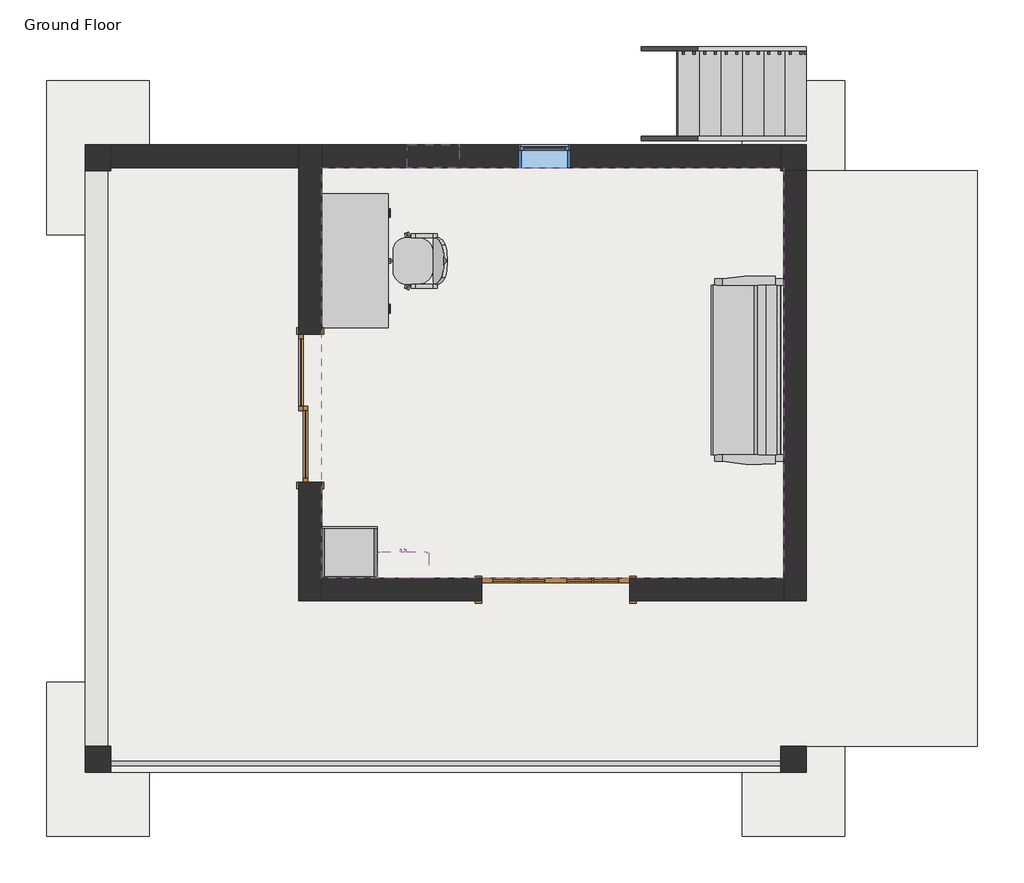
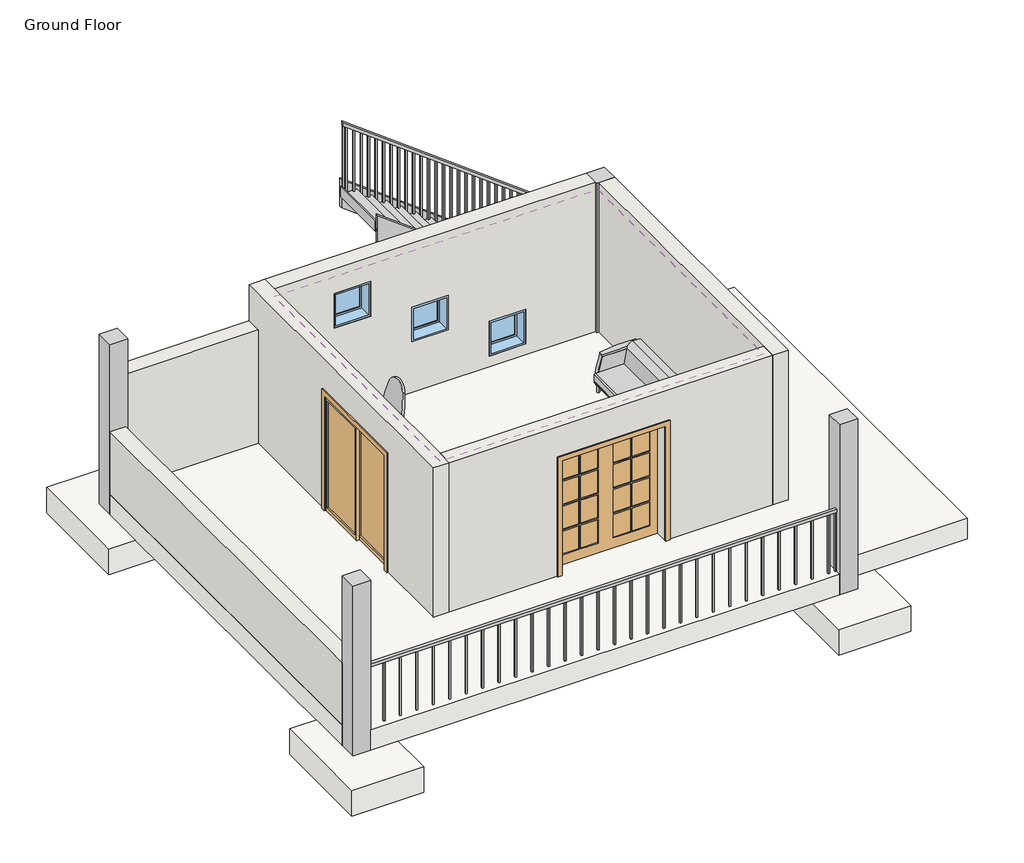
# One storey: 6 walls, 5 furniture elements, 5 slabs, 4 columns, 3 windows, 2 doors, 2 members, 2 railings, 2 other elements.
"""IFC4 building model written with IfcOpenShell, lengths in millimetres."""

from ifc_helpers import new_model, si_unit, frame, origin, origin_with_axes, place, context, project, spatial, polyline, outline, extrude, faceted_brep, transform, mapped, element, save
from components import m_double_glass_2_1730_x_2032mm_0b333e25, m_sliding_2_panel_1730_x_2032mm_289bf79d, m_chair_executive_m_chair_executive_8d69e98c, m_desk_1525_x_762mm_8f660baf, m_sofa_pensi_2134mm_eda8efce, m_tall_cabinet_2_door_built_in_650mm_83a7ffa1, m_upper_cabinet_double_door_w_glass_wall_600mm_8f8874be, m_footing_rectangular_1800_x_1200_x_450mm_16ba7ea5, stair_flight_50mm_tread_13mm_riser_3baf10d3, m_fixed_0610_x_0610mm_b9847aa4

model = new_model("IFC4")

# Units and contexts
model_context = context("Model", 3, world=origin())
ifc_project = project(units=[si_unit("LENGTHUNIT", "METRE", prefix="MILLI")], contexts=[model_context])

# Site, building, storey
site = spatial("IfcSite", under=ifc_project)
building = spatial("IfcBuilding", under=site)
storey = spatial("IfcBuildingStorey", under=building, Name="Ground Floor", Elevation=0.0)

# Columns
placement = place(None, origin())
element("IfcColumn", 1, ObjectType="M_Concrete-Square-Column : 300 x 300mm", at=placement, inside=storey, context=model_context, shape_type="Brep", body=[
    faceted_brep([(-7312.164818, 210.6690392, -362.0), (-7312.164818, -89.3309608, -362.0), (-7612.164818, -89.3309608, -362.0), (-7612.164818, 210.6690392, -362.0), (-7312.164818, 210.6690392, 0.0), (-7312.164818, 210.6690392, 2638.0), (-7312.164818, -89.3309608, 2638.0), (-7312.164818, -89.3309608, 0.0), (-7612.164818, -89.3309608, 2638.0), (-7612.164818, -89.3309608, 0.0), (-7612.164818, 210.6690392, 2638.0)], [[[0, 1, 2, 3]], [[1, 0, 4, 5, 6, 7]], [[2, 1, 7, 6, 8, 9]], [[3, 2, 9, 8, 10]], [[0, 3, 10, 5, 4]], [[6, 5, 10, 8]]]),
])
element("IfcColumn", 2, ObjectType="M_Concrete-Square-Column : 300 x 300mm", at=placement, inside=storey, context=model_context, shape_type="Brep", body=[
    faceted_brep([(-7312.164818, -6817.3309608, -362.0), (-7312.164818, -7117.3309608, -362.0), (-7612.164818, -7117.3309608, -362.0), (-7612.164818, -6817.3309608, -362.0), (-7312.164818, -6817.3309608, 0.0), (-7312.164818, -6817.3309608, 2638.0), (-7312.164818, -7117.3309608, 2638.0), (-7312.164818, -7117.3309608, 0.0), (-7612.164818, -7117.3309608, 2638.0), (-7612.164818, -6817.3309608, 2638.0), (-7612.164818, -6817.3309608, 0.0)], [[[0, 1, 2, 3]], [[1, 0, 4, 5, 6, 7]], [[2, 1, 7, 6, 8]], [[3, 2, 8, 9, 10]], [[0, 3, 10, 9, 5, 4]], [[6, 5, 9, 8]]]),
])
element("IfcColumn", 3, ObjectType="M_Concrete-Square-Column : 300 x 300mm", at=placement, inside=storey, context=model_context, shape_type="Brep", body=[
    faceted_brep([(815.835182, -6817.3309608, -362.0), (815.835182, -7117.3309608, -362.0), (515.835182, -7117.3309608, -362.0), (515.835182, -6817.3309608, -362.0), (815.835182, -6817.3309608, 0.0), (815.835182, -6817.3309608, 2638.0), (815.835182, -7117.3309608, 2638.0), (515.835182, -7117.3309608, 2638.0), (515.835182, -7117.3309608, 0.0), (515.835182, -6817.3309608, 2638.0), (515.835182, -6817.3309608, 0.0)], [[[0, 1, 2, 3]], [[1, 0, 4, 5, 6]], [[2, 1, 6, 7, 8]], [[3, 2, 8, 7, 9, 10]], [[0, 3, 10, 9, 5, 4]], [[6, 5, 9, 7]]]),
])
element("IfcColumn", 4, ObjectType="M_Concrete-Square-Column : 300 x 300mm", at=placement, inside=storey, context=model_context, shape_type="Brep", body=[
    faceted_brep([(815.835182, 210.6690392, -362.0), (815.835182, -89.3309608, -362.0), (515.835182, -89.3309608, -362.0), (515.835182, 210.6690392, -362.0), (815.835182, 210.6690392, 2300.0), (815.835182, 210.6690392, 2500.0), (815.835182, 210.6690392, 2638.0), (815.835182, -89.3309608, 2638.0), (815.835182, -89.3309608, 0.0), (551.835182, -89.3309608, 2638.0), (515.835182, -89.3309608, 2638.0), (515.835182, -89.3309608, 0.0), (515.835182, -53.3309608, 2638.0), (515.835182, 210.6690392, 2638.0), (515.835182, 210.6690392, 0.0)], [[[0, 1, 2, 3]], [[1, 0, 4, 5, 6, 7, 8]], [[2, 1, 8, 7, 9, 10, 11]], [[3, 2, 11, 10, 12, 13, 14]], [[0, 3, 14, 13, 6, 5, 4]], [[7, 6, 13, 12, 10, 9]]]),
])

# Covering
element("IfcCovering", 5, ObjectType="600 x 600mm Grid", at=placement, inside=storey, context=model_context, shape_type="SweptSolid", body=[
    extrude(outline(polyline([(-4848.164818, -4853.3309608), (-4848.164818, -53.3309608), (551.835182, -53.3309608), (551.835182, -4853.3309608), (-4848.164818, -4853.3309608)])), frame((0.0, 0.0, 2500.0), z_axis=(0.0, 0.0, 1.0), x_axis=(1.0, 0.0, 0.0)), (0.0, 0.0, 1.0), 52.0),
])

# Doors
m_double_glass_2_1730_x_2032mm_shape = m_double_glass_2_1730_x_2032mm_0b333e25(model_context)
element("IfcDoor", 6, ObjectType="M_Double-Glass 2 : 1730 x 2032mm", at=placement, inside=storey, context=model_context, shape_type="MappedRepresentation", body=[
    mapped(m_double_glass_2_1730_x_2032mm_shape, transform((-2112.164818, -4985.3309608, 0.0), x_axis=(1.0, 0.0, 0.0), y_axis=(0.0, 1.0, 0.0), z_axis=(0.0, 0.0, 1.0))),
])
m_sliding_2_panel_1730_x_2032mm_shape = m_sliding_2_panel_1730_x_2032mm_289bf79d(model_context)
element("IfcDoor", 7, ObjectType="M_Sliding-2 Panel : 1730 x 2032mm", at=placement, inside=storey, context=model_context, shape_type="MappedRepresentation", body=[
    mapped(m_sliding_2_panel_1730_x_2032mm_shape, transform((-4853.164818, -2867.3309608, 0.0), x_axis=(0.0, -1.0, 0.0), y_axis=(1.0, 0.0, 0.0), z_axis=(0.0, 0.0, 1.0))),
])

# Furniture
m_chair_executive_m_chair_executive_shape = m_chair_executive_m_chair_executive_8d69e98c(model_context)
element("IfcFurniture", 8, ObjectType="M_Chair-Executive : M_Chair-Executive", at=placement, inside=storey, context=model_context, shape_type="MappedRepresentation", body=[
    mapped(m_chair_executive_m_chair_executive_shape, transform((-3729.2189164, -1284.8217805, 0.0), x_axis=(0.0, 1.0000000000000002, 0.0), y_axis=(-1.0000000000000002, 0.0, 0.0), z_axis=(0.0, 0.0, 1.0))),
])
m_desk_1525_x_762mm_shape = m_desk_1525_x_762mm_8f660baf(model_context)
element("IfcFurniture", 9, ObjectType="M_Desk : 1525 x 762mm", at=placement, inside=storey, context=model_context, shape_type="MappedRepresentation", body=[
    mapped(m_desk_1525_x_762mm_shape, transform((-4086.164818, -1905.8309608, 0.0), x_axis=(0.0, 1.0000000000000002, 0.0), y_axis=(-1.0000000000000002, 0.0, 0.0), z_axis=(0.0, 0.0, 1.0))),
])
m_sofa_pensi_2134mm_shape = m_sofa_pensi_2134mm_eda8efce(model_context)
element("IfcFurniture", 10, ObjectType="M_Sofa-Pensi : 2134mm", at=placement, inside=storey, context=model_context, shape_type="MappedRepresentation", body=[
    mapped(m_sofa_pensi_2134mm_shape, transform((-153.2746541, -2138.7247108, 0.0), x_axis=(0.0, -1.0000000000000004, 0.0), y_axis=(1.0000000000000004, 0.0, 0.0), z_axis=(0.0, 0.0, 1.0))),
])
m_tall_cabinet_2_door_built_in_650mm_shape = m_tall_cabinet_2_door_built_in_650mm_83a7ffa1(model_context)
element("IfcFurniture", 11, ObjectType="M_Tall Cabinet-2 Door-Built in : 650mm", at=placement, inside=storey, context=model_context, shape_type="MappedRepresentation", body=[
    mapped(m_tall_cabinet_2_door_built_in_650mm_shape, transform((-4504.4271131, -4853.3309608, 0.0), x_axis=(-1.0, 0.0, 0.0), y_axis=(0.0, -1.0, 0.0), z_axis=(0.0, 0.0, 1.0))),
])
m_upper_cabinet_double_door_w_glass_wall_600mm_shape = m_upper_cabinet_double_door_w_glass_wall_600mm_8f8874be(model_context)
element("IfcFurniture", 12, ObjectType="M_Upper Cabinet-Double Door w Glass-Wall : 600mm", at=placement, inside=storey, context=model_context, shape_type="MappedRepresentation", body=[
    mapped(m_upper_cabinet_double_door_w_glass_wall_600mm_shape, transform((-3927.9359808, -4985.3309608, 0.0), x_axis=(1.0, 0.0, 0.0), y_axis=(0.0, 1.0, 0.0), z_axis=(0.0, 0.0, 1.0))),
])

# Members
element("IfcMember", 13, ObjectType="Stringer - 50mm Width", at=placement, inside=storey, context=model_context, shape_type="SweptSolid", body=[
    extrude(outline(polyline([(0.0, 815.835182), (253.125, 815.835182), (3065.625, -2934.164818), (2565.625, -2934.164818), (0.0, 486.6685153), (0.0, 815.835182)])), frame((0.0, 260.6690392, 0.0), z_axis=(0.0, 1.0, 0.0), x_axis=(0.0, 0.0, 1.0)), (0.0, 0.0, 1.0), 50.0),
])
element("IfcMember", 14, ObjectType="Stringer - 50mm Width", at=placement, inside=storey, context=model_context, shape_type="SweptSolid", body=[
    extrude(outline(polyline([(0.0, 815.835182), (253.125, 815.835182), (3065.625, -2934.164818), (2565.625, -2934.164818), (0.0, 486.6685153), (0.0, 815.835182)])), frame((0.0, 1310.6690392, 0.0), z_axis=(0.0, 1.0, 0.0), x_axis=(0.0, 0.0, 1.0)), (0.0, 0.0, 1.0), 50.0),
])

# Railings
element("IfcRailing", 15, ObjectType="1100mm", at=placement, inside=storey, context=model_context, shape_type="SweptSolid", body=[
    extrude(outline(polyline([(-7312.164818, -7042.3309608), (-7312.164818, -6992.3309608), (515.835182, -6992.3309608), (515.835182, -7042.3309608), (-7312.164818, -7042.3309608)])), frame((0.0, 0.0, 1050.0), z_axis=(0.0, 0.0, 1.0), x_axis=(1.0, 0.0, 0.0)), (0.0, 0.0, 1.0), 50.0),
    extrude(outline(polyline([(375.335182, -7029.8309608), (375.335182, -7004.8309608), (400.335182, -7004.8309608), (400.335182, -7029.8309608), (375.335182, -7029.8309608)])), origin_with_axes(), (0.0, 0.0, 1.0), 1050.0),
    extrude(outline(polyline([(100.335182, -7029.8309608), (100.335182, -7004.8309608), (125.335182, -7004.8309608), (125.335182, -7029.8309608), (100.335182, -7029.8309608)])), origin_with_axes(), (0.0, 0.0, 1.0), 1050.0),
    extrude(outline(polyline([(-174.664818, -7029.8309608), (-174.664818, -7004.8309608), (-149.664818, -7004.8309608), (-149.664818, -7029.8309608), (-174.664818, -7029.8309608)])), origin_with_axes(), (0.0, 0.0, 1.0), 1050.0),
    extrude(outline(polyline([(-449.664818, -7029.8309608), (-449.664818, -7004.8309608), (-424.664818, -7004.8309608), (-424.664818, -7029.8309608), (-449.664818, -7029.8309608)])), origin_with_axes(), (0.0, 0.0, 1.0), 1050.0),
    extrude(outline(polyline([(-724.664818, -7029.8309608), (-724.664818, -7004.8309608), (-699.664818, -7004.8309608), (-699.664818, -7029.8309608), (-724.664818, -7029.8309608)])), origin_with_axes(), (0.0, 0.0, 1.0), 1050.0),
    extrude(outline(polyline([(-999.664818, -7029.8309608), (-999.664818, -7004.8309608), (-974.664818, -7004.8309608), (-974.664818, -7029.8309608), (-999.664818, -7029.8309608)])), origin_with_axes(), (0.0, 0.0, 1.0), 1050.0),
    extrude(outline(polyline([(-1274.664818, -7029.8309608), (-1274.664818, -7004.8309608), (-1249.664818, -7004.8309608), (-1249.664818, -7029.8309608), (-1274.664818, -7029.8309608)])), origin_with_axes(), (0.0, 0.0, 1.0), 1050.0),
    extrude(outline(polyline([(-1549.664818, -7029.8309608), (-1549.664818, -7004.8309608), (-1524.664818, -7004.8309608), (-1524.664818, -7029.8309608), (-1549.664818, -7029.8309608)])), origin_with_axes(), (0.0, 0.0, 1.0), 1050.0),
    extrude(outline(polyline([(-1824.664818, -7029.8309608), (-1824.664818, -7004.8309608), (-1799.664818, -7004.8309608), (-1799.664818, -7029.8309608), (-1824.664818, -7029.8309608)])), origin_with_axes(), (0.0, 0.0, 1.0), 1050.0),
    extrude(outline(polyline([(-2099.664818, -7029.8309608), (-2099.664818, -7004.8309608), (-2074.664818, -7004.8309608), (-2074.664818, -7029.8309608), (-2099.664818, -7029.8309608)])), origin_with_axes(), (0.0, 0.0, 1.0), 1050.0),
    extrude(outline(polyline([(-2374.664818, -7029.8309608), (-2374.664818, -7004.8309608), (-2349.664818, -7004.8309608), (-2349.664818, -7029.8309608), (-2374.664818, -7029.8309608)])), origin_with_axes(), (0.0, 0.0, 1.0), 1050.0),
    extrude(outline(polyline([(-2649.664818, -7029.8309608), (-2649.664818, -7004.8309608), (-2624.664818, -7004.8309608), (-2624.664818, -7029.8309608), (-2649.664818, -7029.8309608)])), origin_with_axes(), (0.0, 0.0, 1.0), 1050.0),
    extrude(outline(polyline([(-2924.664818, -7029.8309608), (-2924.664818, -7004.8309608), (-2899.664818, -7004.8309608), (-2899.664818, -7029.8309608), (-2924.664818, -7029.8309608)])), origin_with_axes(), (0.0, 0.0, 1.0), 1050.0),
    extrude(outline(polyline([(-3199.664818, -7029.8309608), (-3199.664818, -7004.8309608), (-3174.664818, -7004.8309608), (-3174.664818, -7029.8309608), (-3199.664818, -7029.8309608)])), origin_with_axes(), (0.0, 0.0, 1.0), 1050.0),
    extrude(outline(polyline([(-3474.664818, -7029.8309608), (-3474.664818, -7004.8309608), (-3449.664818, -7004.8309608), (-3449.664818, -7029.8309608), (-3474.664818, -7029.8309608)])), origin_with_axes(), (0.0, 0.0, 1.0), 1050.0),
    extrude(outline(polyline([(-3749.664818, -7029.8309608), (-3749.664818, -7004.8309608), (-3724.664818, -7004.8309608), (-3724.664818, -7029.8309608), (-3749.664818, -7029.8309608)])), origin_with_axes(), (0.0, 0.0, 1.0), 1050.0),
    extrude(outline(polyline([(-4024.664818, -7029.8309608), (-4024.664818, -7004.8309608), (-3999.664818, -7004.8309608), (-3999.664818, -7029.8309608), (-4024.664818, -7029.8309608)])), origin_with_axes(), (0.0, 0.0, 1.0), 1050.0),
    extrude(outline(polyline([(-4299.664818, -7029.8309608), (-4299.664818, -7004.8309608), (-4274.664818, -7004.8309608), (-4274.664818, -7029.8309608), (-4299.664818, -7029.8309608)])), origin_with_axes(), (0.0, 0.0, 1.0), 1050.0),
    extrude(outline(polyline([(-4574.664818, -7029.8309608), (-4574.664818, -7004.8309608), (-4549.664818, -7004.8309608), (-4549.664818, -7029.8309608), (-4574.664818, -7029.8309608)])), origin_with_axes(), (0.0, 0.0, 1.0), 1050.0),
    extrude(outline(polyline([(-4849.664818, -7029.8309608), (-4849.664818, -7004.8309608), (-4824.664818, -7004.8309608), (-4824.664818, -7029.8309608), (-4849.664818, -7029.8309608)])), origin_with_axes(), (0.0, 0.0, 1.0), 1050.0),
    extrude(outline(polyline([(-5124.664818, -7029.8309608), (-5124.664818, -7004.8309608), (-5099.664818, -7004.8309608), (-5099.664818, -7029.8309608), (-5124.664818, -7029.8309608)])), origin_with_axes(), (0.0, 0.0, 1.0), 1050.0),
    extrude(outline(polyline([(-5399.664818, -7029.8309608), (-5399.664818, -7004.8309608), (-5374.664818, -7004.8309608), (-5374.664818, -7029.8309608), (-5399.664818, -7029.8309608)])), origin_with_axes(), (0.0, 0.0, 1.0), 1050.0),
    extrude(outline(polyline([(-5674.664818, -7029.8309608), (-5674.664818, -7004.8309608), (-5649.664818, -7004.8309608), (-5649.664818, -7029.8309608), (-5674.664818, -7029.8309608)])), origin_with_axes(), (0.0, 0.0, 1.0), 1050.0),
    extrude(outline(polyline([(-5949.664818, -7029.8309608), (-5949.664818, -7004.8309608), (-5924.664818, -7004.8309608), (-5924.664818, -7029.8309608), (-5949.664818, -7029.8309608)])), origin_with_axes(), (0.0, 0.0, 1.0), 1050.0),
    extrude(outline(polyline([(-6224.664818, -7029.8309608), (-6224.664818, -7004.8309608), (-6199.664818, -7004.8309608), (-6199.664818, -7029.8309608), (-6224.664818, -7029.8309608)])), origin_with_axes(), (0.0, 0.0, 1.0), 1050.0),
    extrude(outline(polyline([(-6499.664818, -7029.8309608), (-6499.664818, -7004.8309608), (-6474.664818, -7004.8309608), (-6474.664818, -7029.8309608), (-6499.664818, -7029.8309608)])), origin_with_axes(), (0.0, 0.0, 1.0), 1050.0),
    extrude(outline(polyline([(-6774.664818, -7029.8309608), (-6774.664818, -7004.8309608), (-6749.664818, -7004.8309608), (-6749.664818, -7029.8309608), (-6774.664818, -7029.8309608)])), origin_with_axes(), (0.0, 0.0, 1.0), 1050.0),
    extrude(outline(polyline([(-7049.664818, -7029.8309608), (-7049.664818, -7004.8309608), (-7024.664818, -7004.8309608), (-7024.664818, -7029.8309608), (-7049.664818, -7029.8309608)])), origin_with_axes(), (0.0, 0.0, 1.0), 1050.0),
    extrude(outline(polyline([(490.835182, -7029.8309608), (490.835182, -7004.8309608), (515.835182, -7004.8309608), (515.835182, -7029.8309608), (490.835182, -7029.8309608)])), origin_with_axes(), (0.0, 0.0, 1.0), 1050.0),
    extrude(outline(polyline([(-7312.164818, -7029.8309608), (-7312.164818, -7004.8309608), (-7287.164818, -7004.8309608), (-7287.164818, -7029.8309608), (-7312.164818, -7029.8309608)])), origin_with_axes(), (0.0, 0.0, 1.0), 1050.0),
])
element("IfcRailing", 16, ObjectType="1100mm", at=placement, inside=storey, context=model_context, shape_type="SweptSolid", body=[
    extrude(outline(polyline([(1225.0, 815.835182), (1287.5, 815.835182), (4100.0, -2934.164818), (4037.5, -2934.164818), (1225.0, 815.835182)])), frame((0.0, 1260.2690392, 0.0), z_axis=(0.0, 1.0, 0.0), x_axis=(0.0, 0.0, 1.0)), (0.0, 0.0, 1.0), 50.0),
    extrude(outline(polyline([(2812.5, -2859.164818), (3981.25, -2859.164818), (4000.0, -2884.164818), (2812.5, -2884.164818), (2812.5, -2859.164818)])), frame((0.0, 1272.7690392, 0.0), z_axis=(0.0, 1.0, 0.0), x_axis=(0.0, 0.0, 1.0)), (0.0, 0.0, 1.0), 25.0),
    extrude(outline(polyline([(2812.5, -2734.164818), (3887.5, -2734.164818), (3906.25, -2759.164818), (2812.5, -2759.164818), (2812.5, -2734.164818)])), frame((0.0, 1272.7690392, 0.0), z_axis=(0.0, 1.0, 0.0), x_axis=(0.0, 0.0, 1.0)), (0.0, 0.0, 1.0), 25.0),
    extrude(outline(polyline([(2625.0, -2609.164818), (3793.75, -2609.164818), (3812.5, -2634.164818), (2625.0, -2634.164818), (2625.0, -2609.164818)])), frame((0.0, 1272.7690392, 0.0), z_axis=(0.0, 1.0, 0.0), x_axis=(0.0, 0.0, 1.0)), (0.0, 0.0, 1.0), 25.0),
    extrude(outline(polyline([(2625.0, -2484.164818), (3700.0, -2484.164818), (3718.75, -2509.164818), (2625.0, -2509.164818), (2625.0, -2484.164818)])), frame((0.0, 1272.7690392, 0.0), z_axis=(0.0, 1.0, 0.0), x_axis=(0.0, 0.0, 1.0)), (0.0, 0.0, 1.0), 25.0),
    extrude(outline(polyline([(2437.5, -2359.164818), (3606.25, -2359.164818), (3625.0, -2384.164818), (2437.5, -2384.164818), (2437.5, -2359.164818)])), frame((0.0, 1272.7690392, 0.0), z_axis=(0.0, 1.0, 0.0), x_axis=(0.0, 0.0, 1.0)), (0.0, 0.0, 1.0), 25.0),
    extrude(outline(polyline([(2437.5, -2234.164818), (3512.5, -2234.164818), (3531.25, -2259.164818), (2437.5, -2259.164818), (2437.5, -2234.164818)])), frame((0.0, 1272.7690392, 0.0), z_axis=(0.0, 1.0, 0.0), x_axis=(0.0, 0.0, 1.0)), (0.0, 0.0, 1.0), 25.0),
    extrude(outline(polyline([(2250.0, -2109.164818), (3418.75, -2109.164818), (3437.5, -2134.164818), (2250.0, -2134.164818), (2250.0, -2109.164818)])), frame((0.0, 1272.7690392, 0.0), z_axis=(0.0, 1.0, 0.0), x_axis=(0.0, 0.0, 1.0)), (0.0, 0.0, 1.0), 25.0),
    extrude(outline(polyline([(2250.0, -1984.164818), (3325.0, -1984.164818), (3343.75, -2009.164818), (2250.0, -2009.164818), (2250.0, -1984.164818)])), frame((0.0, 1272.7690392, 0.0), z_axis=(0.0, 1.0, 0.0), x_axis=(0.0, 0.0, 1.0)), (0.0, 0.0, 1.0), 25.0),
    extrude(outline(polyline([(2062.5, -1859.164818), (3231.25, -1859.164818), (3250.0, -1884.164818), (2062.5, -1884.164818), (2062.5, -1859.164818)])), frame((0.0, 1272.7690392, 0.0), z_axis=(0.0, 1.0, 0.0), x_axis=(0.0, 0.0, 1.0)), (0.0, 0.0, 1.0), 25.0),
    extrude(outline(polyline([(2062.5, -1734.164818), (3137.5, -1734.164818), (3156.25, -1759.164818), (2062.5, -1759.164818), (2062.5, -1734.164818)])), frame((0.0, 1272.7690392, 0.0), z_axis=(0.0, 1.0, 0.0), x_axis=(0.0, 0.0, 1.0)), (0.0, 0.0, 1.0), 25.0),
    extrude(outline(polyline([(1875.0, -1609.164818), (3043.75, -1609.164818), (3062.5, -1634.164818), (1875.0, -1634.164818), (1875.0, -1609.164818)])), frame((0.0, 1272.7690392, 0.0), z_axis=(0.0, 1.0, 0.0), x_axis=(0.0, 0.0, 1.0)), (0.0, 0.0, 1.0), 25.0),
    extrude(outline(polyline([(1875.0, -1484.164818), (2950.0, -1484.164818), (2968.75, -1509.164818), (1875.0, -1509.164818), (1875.0, -1484.164818)])), frame((0.0, 1272.7690392, 0.0), z_axis=(0.0, 1.0, 0.0), x_axis=(0.0, 0.0, 1.0)), (0.0, 0.0, 1.0), 25.0),
    extrude(outline(polyline([(1687.5, -1359.164818), (2856.25, -1359.164818), (2875.0, -1384.164818), (1687.5, -1384.164818), (1687.5, -1359.164818)])), frame((0.0, 1272.7690392, 0.0), z_axis=(0.0, 1.0, 0.0), x_axis=(0.0, 0.0, 1.0)), (0.0, 0.0, 1.0), 25.0),
    extrude(outline(polyline([(1687.5, -1234.164818), (2762.5, -1234.164818), (2781.25, -1259.164818), (1687.5, -1259.164818), (1687.5, -1234.164818)])), frame((0.0, 1272.7690392, 0.0), z_axis=(0.0, 1.0, 0.0), x_axis=(0.0, 0.0, 1.0)), (0.0, 0.0, 1.0), 25.0),
    extrude(outline(polyline([(1500.0, -1109.164818), (2668.75, -1109.164818), (2687.5, -1134.164818), (1500.0, -1134.164818), (1500.0, -1109.164818)])), frame((0.0, 1272.7690392, 0.0), z_axis=(0.0, 1.0, 0.0), x_axis=(0.0, 0.0, 1.0)), (0.0, 0.0, 1.0), 25.0),
    extrude(outline(polyline([(1500.0, -984.164818), (2575.0, -984.164818), (2593.75, -1009.164818), (1500.0, -1009.164818), (1500.0, -984.164818)])), frame((0.0, 1272.7690392, 0.0), z_axis=(0.0, 1.0, 0.0), x_axis=(0.0, 0.0, 1.0)), (0.0, 0.0, 1.0), 25.0),
    extrude(outline(polyline([(1312.5, -859.164818), (2481.25, -859.164818), (2500.0, -884.164818), (1312.5, -884.164818), (1312.5, -859.164818)])), frame((0.0, 1272.7690392, 0.0), z_axis=(0.0, 1.0, 0.0), x_axis=(0.0, 0.0, 1.0)), (0.0, 0.0, 1.0), 25.0),
    extrude(outline(polyline([(1312.5, -734.164818), (2387.5, -734.164818), (2406.25, -759.164818), (1312.5, -759.164818), (1312.5, -734.164818)])), frame((0.0, 1272.7690392, 0.0), z_axis=(0.0, 1.0, 0.0), x_axis=(0.0, 0.0, 1.0)), (0.0, 0.0, 1.0), 25.0),
    extrude(outline(polyline([(1125.0, -609.164818), (2293.75, -609.164818), (2312.5, -634.164818), (1125.0, -634.164818), (1125.0, -609.164818)])), frame((0.0, 1272.7690392, 0.0), z_axis=(0.0, 1.0, 0.0), x_axis=(0.0, 0.0, 1.0)), (0.0, 0.0, 1.0), 25.0),
    extrude(outline(polyline([(1125.0, -484.164818), (2200.0, -484.164818), (2218.75, -509.164818), (1125.0, -509.164818), (1125.0, -484.164818)])), frame((0.0, 1272.7690392, 0.0), z_axis=(0.0, 1.0, 0.0), x_axis=(0.0, 0.0, 1.0)), (0.0, 0.0, 1.0), 25.0),
    extrude(outline(polyline([(937.5, -359.164818), (2106.25, -359.164818), (2125.0, -384.164818), (937.5, -384.164818), (937.5, -359.164818)])), frame((0.0, 1272.7690392, 0.0), z_axis=(0.0, 1.0, 0.0), x_axis=(0.0, 0.0, 1.0)), (0.0, 0.0, 1.0), 25.0),
    extrude(outline(polyline([(937.5, -234.164818), (2012.5, -234.164818), (2031.25, -259.164818), (937.5, -259.164818), (937.5, -234.164818)])), frame((0.0, 1272.7690392, 0.0), z_axis=(0.0, 1.0, 0.0), x_axis=(0.0, 0.0, 1.0)), (0.0, 0.0, 1.0), 25.0),
    extrude(outline(polyline([(750.0, -109.164818), (1918.75, -109.164818), (1937.5, -134.164818), (750.0, -134.164818), (750.0, -109.164818)])), frame((0.0, 1272.7690392, 0.0), z_axis=(0.0, 1.0, 0.0), x_axis=(0.0, 0.0, 1.0)), (0.0, 0.0, 1.0), 25.0),
    extrude(outline(polyline([(750.0, 15.835182), (1825.0, 15.835182), (1843.75, -9.164818), (750.0, -9.164818), (750.0, 15.835182)])), frame((0.0, 1272.7690392, 0.0), z_axis=(0.0, 1.0, 0.0), x_axis=(0.0, 0.0, 1.0)), (0.0, 0.0, 1.0), 25.0),
    extrude(outline(polyline([(562.5, 140.835182), (1731.25, 140.835182), (1750.0, 115.835182), (562.5, 115.835182), (562.5, 140.835182)])), frame((0.0, 1272.7690392, 0.0), z_axis=(0.0, 1.0, 0.0), x_axis=(0.0, 0.0, 1.0)), (0.0, 0.0, 1.0), 25.0),
    extrude(outline(polyline([(562.5, 265.835182), (1637.5, 265.835182), (1656.25, 240.835182), (562.5, 240.835182), (562.5, 265.835182)])), frame((0.0, 1272.7690392, 0.0), z_axis=(0.0, 1.0, 0.0), x_axis=(0.0, 0.0, 1.0)), (0.0, 0.0, 1.0), 25.0),
    extrude(outline(polyline([(375.0, 390.835182), (1543.75, 390.835182), (1562.5, 365.835182), (375.0, 365.835182), (375.0, 390.835182)])), frame((0.0, 1272.7690392, 0.0), z_axis=(0.0, 1.0, 0.0), x_axis=(0.0, 0.0, 1.0)), (0.0, 0.0, 1.0), 25.0),
    extrude(outline(polyline([(375.0, 515.835182), (1450.0, 515.835182), (1468.75, 490.835182), (375.0, 490.835182), (375.0, 515.835182)])), frame((0.0, 1272.7690392, 0.0), z_axis=(0.0, 1.0, 0.0), x_axis=(0.0, 0.0, 1.0)), (0.0, 0.0, 1.0), 25.0),
    extrude(outline(polyline([(187.5, 640.835182), (1356.25, 640.835182), (1375.0, 615.835182), (187.5, 615.835182), (187.5, 640.835182)])), frame((0.0, 1272.7690392, 0.0), z_axis=(0.0, 1.0, 0.0), x_axis=(0.0, 0.0, 1.0)), (0.0, 0.0, 1.0), 25.0),
    extrude(outline(polyline([(187.5, 765.835182), (1262.5, 765.835182), (1281.25, 740.835182), (187.5, 740.835182), (187.5, 765.835182)])), frame((0.0, 1272.7690392, 0.0), z_axis=(0.0, 1.0, 0.0), x_axis=(0.0, 0.0, 1.0)), (0.0, 0.0, 1.0), 25.0),
    extrude(outline(polyline([(2812.5, -2909.164818), (4018.75, -2909.164818), (4037.5, -2934.164818), (2812.5, -2934.164818), (2812.5, -2909.164818)])), frame((0.0, 1272.7690392, 0.0), z_axis=(0.0, 1.0, 0.0), x_axis=(0.0, 0.0, 1.0)), (0.0, 0.0, 1.0), 25.0),
    extrude(outline(polyline([(187.5, 815.835182), (1225.0, 815.835182), (1243.75, 790.835182), (187.5, 790.835182), (187.5, 815.835182)])), frame((0.0, 1272.7690392, 0.0), z_axis=(0.0, 1.0, 0.0), x_axis=(0.0, 0.0, 1.0)), (0.0, 0.0, 1.0), 25.0),
])

# Slabs
element("IfcSlab", 17, ObjectType="Concrete-Commercial 362mm", at=placement, inside=storey, context=model_context, shape_type="Brep", body=[
    faceted_brep([(515.835182, 210.6690392, -362.0), (515.835182, -89.3309608, -362.0), (815.835182, -89.3309608, -362.0), (2815.835182, -89.3309608, -362.0), (2815.835182, -6817.3309608, -362.0), (815.835182, -6817.3309608, -362.0), (515.835182, -6817.3309608, -362.0), (515.835182, -7117.3309608, -362.0), (-7312.164818, -7117.3309608, -362.0), (-7312.164818, -6817.3309608, -362.0), (-7612.164818, -6817.3309608, -362.0), (-7612.164818, -89.3309608, -362.0), (-7312.164818, -89.3309608, -362.0), (-7312.164818, 210.6690392, -362.0), (515.835182, 210.6690392, 0.0), (-7312.164818, 210.6690392, 0.0), (-7312.164818, -89.3309608, 0.0), (-7612.164818, -89.3309608, 0.0), (-7612.164818, -6817.3309608, 0.0), (-7312.164818, -6817.3309608, 0.0), (-7312.164818, -7117.3309608, 0.0), (515.835182, -7117.3309608, 0.0), (515.835182, -6817.3309608, 0.0), (2815.835182, -6817.3309608, 0.0), (2815.835182, -89.3309608, 0.0), (515.835182, -89.3309608, 0.0)], [[[0, 1, 2, 3, 4, 5, 6, 7, 8, 9, 10, 11, 12, 13]], [[14, 15, 16, 17, 18, 19, 20, 21, 22, 23, 24, 25]], [[8, 7, 21, 20]], [[11, 10, 18, 17]], [[0, 13, 15, 14]], [[1, 0, 14, 25]], [[3, 2, 1, 25, 24]], [[6, 5, 4, 23, 22]], [[7, 6, 22, 21]], [[9, 8, 20, 19]], [[10, 9, 19, 18]], [[12, 11, 17, 16]], [[13, 12, 16, 15]], [[4, 3, 24, 23]]]),
])
m_footing_rectangular_1800_x_1200_x_450mm_shape = m_footing_rectangular_1800_x_1200_x_450mm_16ba7ea5(model_context)
element("IfcSlab", 18, ObjectType="M_Footing-Rectangular : 1800 x 1200 x 450mm", at=placement, inside=storey, context=model_context, shape_type="MappedRepresentation", body=[
    mapped(m_footing_rectangular_1800_x_1200_x_450mm_shape, transform((-7462.164818, 60.6690392, -362.0), x_axis=(1.0, 0.0, 0.0), y_axis=(0.0, 1.0, 0.0), z_axis=(0.0, 0.0, 1.0))),
])
element("IfcSlab", 19, ObjectType="M_Footing-Rectangular : 1800 x 1200 x 450mm", at=placement, inside=storey, context=model_context, shape_type="MappedRepresentation", body=[
    mapped(m_footing_rectangular_1800_x_1200_x_450mm_shape, transform((-7462.164818, -6967.3309608, -362.0), x_axis=(1.0, 0.0, 0.0), y_axis=(0.0, 1.0, 0.0), z_axis=(0.0, 0.0, 1.0))),
])
element("IfcSlab", 20, ObjectType="M_Footing-Rectangular : 1800 x 1200 x 450mm", at=placement, inside=storey, context=model_context, shape_type="MappedRepresentation", body=[
    mapped(m_footing_rectangular_1800_x_1200_x_450mm_shape, transform((665.835182, -6967.3309608, -362.0), x_axis=(1.0, 0.0, 0.0), y_axis=(0.0, 1.0, 0.0), z_axis=(0.0, 0.0, 1.0))),
])
element("IfcSlab", 21, ObjectType="M_Footing-Rectangular : 1800 x 1200 x 450mm", at=placement, inside=storey, context=model_context, shape_type="MappedRepresentation", body=[
    mapped(m_footing_rectangular_1800_x_1200_x_450mm_shape, transform((665.835182, 60.6690392, -362.0), x_axis=(1.0, 0.0, 0.0), y_axis=(0.0, 1.0, 0.0), z_axis=(0.0, 0.0, 1.0))),
])

# Stair flight
stair_flight_50mm_tread_13mm_riser_shape = stair_flight_50mm_tread_13mm_riser_3baf10d3(model_context)
element("IfcStairFlight", 22, ObjectType="50mm Tread 13mm Riser", at=placement, inside=storey, context=model_context, shape_type="MappedRepresentation", body=[
    mapped(stair_flight_50mm_tread_13mm_riser_shape, transform((0.0, 0.0, 0.0), x_axis=(1.0, 0.0, 0.0), y_axis=(0.0, 1.0, 0.0), z_axis=(0.0, 0.0, 1.0))),
])

# Walls
element("IfcWall", 23, ObjectType="CW 102-50-100p", at=placement, inside=storey, context=model_context, shape_type="Brep", body=[
    faceted_brep([(-4848.164818, -5117.3309608, 2638.0), (-4848.164818, -5117.3309608, 0.0), (-4848.164818, -4853.3309608, 0.0), (-4848.164818, -3732.3309608, 0.0), (-4848.164818, -3732.3309608, 2032.0), (-4848.164818, -2002.3309608, 2032.0), (-4848.164818, -2002.3309608, 0.0), (-4848.164818, -53.3309608, 0.0), (-4848.164818, 210.6690392, 0.0), (-4848.164818, 210.6690392, 2638.0), (-4848.164818, -53.3309608, 2638.0), (-4848.164818, -4853.3309608, 2638.0), (-5112.164818, -5117.3309608, 0.0), (-5112.164818, -5117.3309608, 2638.0), (-5112.164818, 210.6690392, 2638.0), (-5112.164818, 210.6690392, 2000.0), (-5112.164818, 210.6690392, 0.0), (-5112.164818, -53.3309608, 0.0), (-5112.164818, -2002.3309608, 0.0), (-5112.164818, -2002.3309608, 2032.0), (-5112.164818, -3732.3309608, 2032.0), (-5112.164818, -3732.3309608, 0.0)], [[[0, 1, 2, 3, 4, 5, 6, 7, 8, 9, 10, 11]], [[12, 13, 14, 15, 16, 17, 18, 19, 20, 21]], [[16, 8, 7, 6, 18, 17]], [[1, 12, 21, 3, 2]], [[1, 0, 13, 12]], [[8, 16, 15, 14, 9]], [[20, 4, 3, 21]], [[5, 19, 18, 6]], [[19, 5, 4, 20]], [[0, 11, 10, 9, 14, 13]]]),
])
element("IfcWall", 24, ObjectType="CW 102-50-100p", at=placement, inside=storey, context=model_context, shape_type="SweptSolid", body=[
    extrude(outline(polyline([(2638.0, -4848.164818), (0.0, -4848.164818), (0.0, 515.835182), (2638.0, 515.835182), (2638.0, -4848.164818)]), holes=[polyline([(2200.0, -3238.164818), (1590.0, -3238.164818), (1590.0, -3848.164818), (2200.0, -3848.164818), (2200.0, -3238.164818)]), polyline([(1500.0, -1938.164818), (890.0, -1938.164818), (890.0, -2548.164818), (1500.0, -2548.164818), (1500.0, -1938.164818)]), polyline([(800.0, -648.164818), (190.0, -648.164818), (190.0, -1258.164818), (800.0, -1258.164818), (800.0, -648.164818)])]), frame((0.0, -53.3309608, 0.0), z_axis=(0.0, 1.0, 0.0), x_axis=(0.0, 0.0, 1.0)), (0.0, 0.0, 1.0), 264.0),
])
element("IfcWall", 25, ObjectType="CW 102-50-100p", at=placement, inside=storey, context=model_context, shape_type="Brep", body=[
    faceted_brep([(551.835182, -5117.3309608, 0.0), (551.835182, -5117.3309608, 2638.0), (551.835182, -4853.3309608, 2638.0), (551.835182, -89.3309608, 2638.0), (551.835182, -89.3309608, 0.0), (551.835182, -4853.3309608, 0.0), (815.835182, -5117.3309608, 2638.0), (815.835182, -5117.3309608, 0.0), (815.835182, -89.3309608, 0.0), (815.835182, -89.3309608, 2638.0)], [[[0, 1, 2, 3, 4, 5]], [[6, 7, 8, 9]], [[7, 0, 5, 4, 8]], [[1, 0, 7, 6]], [[1, 6, 9, 3, 2]], [[4, 3, 9, 8]]]),
])
element("IfcWall", 26, ObjectType="CW 102-50-100p", at=placement, inside=storey, context=model_context, shape_type="SweptSolid", body=[
    extrude(outline(polyline([(0.0, 551.835182), (2638.0, 551.835182), (2638.0, -4848.164818), (0.0, -4848.164818), (0.0, -2977.164818), (2032.0, -2977.164818), (2032.0, -1247.164818), (0.0, -1247.164818), (0.0, 551.835182)])), frame((0.0, -5117.3309608, 0.0), z_axis=(0.0, 1.0, 0.0), x_axis=(0.0, 0.0, 1.0)), (0.0, 0.0, 1.0), 264.0),
])
element("IfcWall", 27, ObjectType="CW 102-50-100p", at=placement, inside=storey, context=model_context, shape_type="SweptSolid", body=[
    extrude(outline(polyline([(-7312.164818, 210.6690392), (-5112.164818, 210.6690392), (-5112.164818, -53.3309608), (-7312.164818, -53.3309608), (-7312.164818, 210.6690392)])), origin_with_axes(), (0.0, 0.0, 1.0), 2000.0),
])
element("IfcWall", 28, ObjectType="CW 102-50-100p", at=placement, inside=storey, context=model_context, shape_type="SweptSolid", body=[
    extrude(outline(polyline([(-7612.164818, -6817.3309608), (-7612.164818, -89.3309608), (-7348.164818, -89.3309608), (-7348.164818, -6817.3309608), (-7612.164818, -6817.3309608)])), origin_with_axes(), (0.0, 0.0, 1.0), 1100.0),
])

# Windows
m_fixed_0610_x_0610mm_shape = m_fixed_0610_x_0610mm_b9847aa4(model_context)
element("IfcWindow", 29, ObjectType="M_Fixed : 0610 x 0610mm", at=placement, inside=storey, context=model_context, shape_type="MappedRepresentation", body=[
    mapped(m_fixed_0610_x_0610mm_shape, transform((-3543.164818, 65.6690392, 675.0), x_axis=(-1.0, 0.0, 0.0), y_axis=(0.0, -1.0, 0.0), z_axis=(0.0, 0.0, 1.0))),
])
element("IfcWindow", 30, ObjectType="M_Fixed : 0610 x 0610mm", at=placement, inside=storey, context=model_context, shape_type="MappedRepresentation", body=[
    mapped(m_fixed_0610_x_0610mm_shape, transform((-2243.164818, 65.6690392, -25.0), x_axis=(-1.0, 0.0, 0.0), y_axis=(0.0, -1.0, 0.0), z_axis=(0.0, 0.0, 1.0))),
])
element("IfcWindow", 31, ObjectType="M_Fixed : 0610 x 0610mm", at=placement, inside=storey, context=model_context, shape_type="MappedRepresentation", body=[
    mapped(m_fixed_0610_x_0610mm_shape, transform((-953.164818, 65.6690392, -725.0), x_axis=(-1.0, 0.0, 0.0), y_axis=(0.0, -1.0, 0.0), z_axis=(0.0, 0.0, 1.0))),
])

save(model, "model.ifc")
